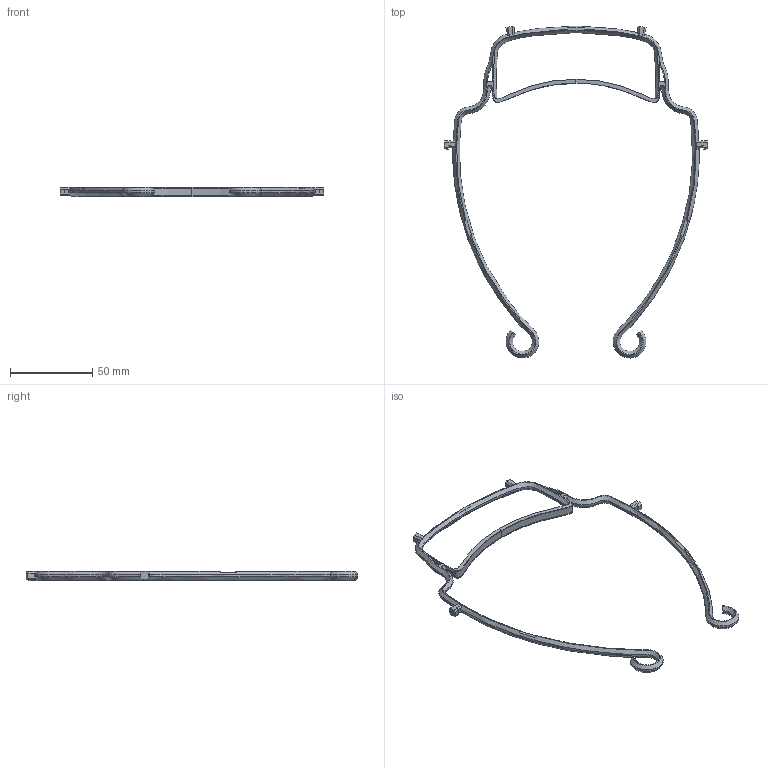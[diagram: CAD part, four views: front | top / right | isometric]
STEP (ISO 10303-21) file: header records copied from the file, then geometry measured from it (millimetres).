
FILE_DESCRIPTION(/* description */ (''),/* implementation_level */ '2;1');
FILE_NAME(/* name */ 'Medium_1Stack',/* time_stamp */ '2020-03-30T16:06:43+11:00',/* author */ (''),/* organization */ (''),/* preprocessor_version */ 'ST-DEVELOPER v16.5',/* originating_system */ '',/* authorisation */ '');
FILE_SCHEMA (('AUTOMOTIVE_DESIGN'));
Length unit declared in the file: millimetre
Products named in the file (1): Document
Bounding box: 160.28 x 202.01 x 5.5 mm (x, y, z)
Volume: 13292.2 mm3; surface area: 10924.7 mm2
Topology: 5 solids, 5 shells, 113 faces, 285 edges, 180 vertices
Faces by surface type: bspline 60, plane 53
Entity records: 5770 total; most frequent: CARTESIAN_POINT 3847, ORIENTED_EDGE 570, EDGE_CURVE 285, B_SPLINE_CURVE_WITH_KNOTS 285, VERTEX_POINT 180, EDGE_LOOP 117, ADVANCED_FACE 113, FACE_OUTER_BOUND 113
